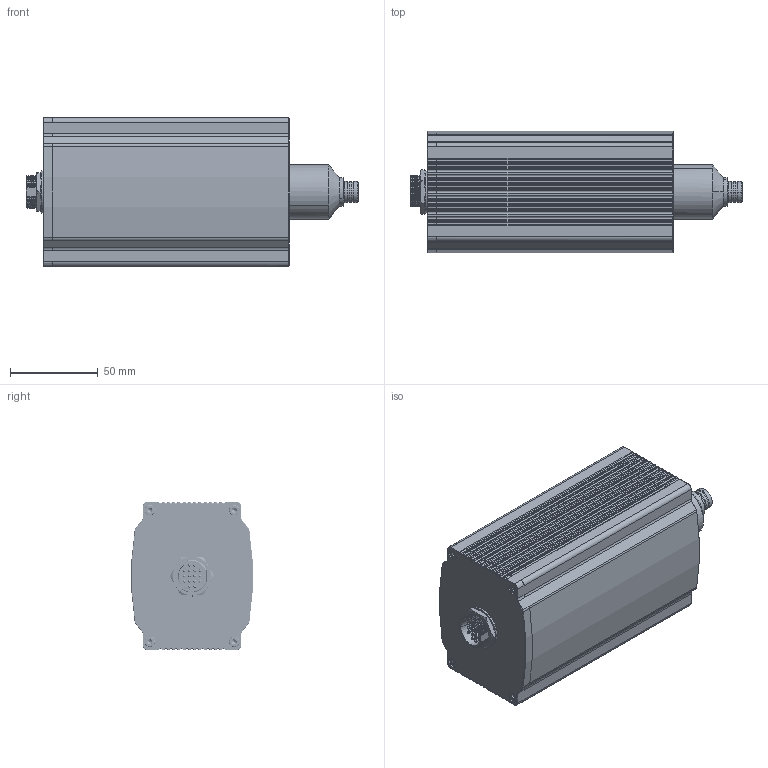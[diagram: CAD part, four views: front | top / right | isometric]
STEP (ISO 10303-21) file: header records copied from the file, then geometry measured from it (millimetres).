
FILE_DESCRIPTION((''),'2;1');
FILE_NAME('PRT0001','2025-12-30T14:37:18',('Admin'),(''),'CREO PARAMETRIC BY PTC INC, 2020074','CREO PARAMETRIC BY PTC INC, 2020074','');
FILE_SCHEMA(('CONFIG_CONTROL_DESIGN'));
Length unit declared in the file: millimetre
Products named in the file (1): PRT0001
Bounding box: 189.32 x 69.14 x 84.5 mm (x, y, z)
Volume: 474020.3 mm3; surface area: 140178.8 mm2
Topology: 2 solids, 4 shells, 2363 faces, 7050 edges, 4669 vertices
Faces by surface type: cylinder 1122, plane 385, bspline 362, cone 208, extrusion 142, torus 88, sphere 56
Entity records: 131014 total; most frequent: CARTESIAN_POINT 73251, ORIENTED_EDGE 13956, DIRECTION 9356, EDGE_CURVE 6978, VERTEX_POINT 4669, AXIS2_PLACEMENT_3D 3352, B_SPLINE_CURVE_WITH_KNOTS 3117, VECTOR 2652
